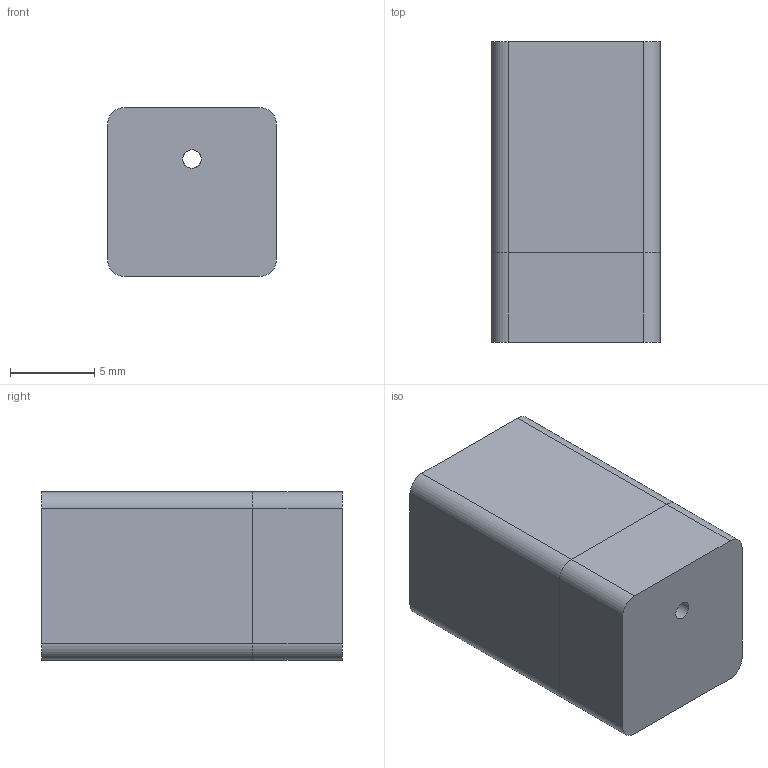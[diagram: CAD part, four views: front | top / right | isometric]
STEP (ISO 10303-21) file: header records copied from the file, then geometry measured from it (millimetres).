
FILE_DESCRIPTION(/* description */ (''),/* implementation_level */ '2;1');
FILE_NAME(/* name */ 'Cylinder (5mm,chonky,top hole, fritslot) v7.step',/* time_stamp */ '2024-06-22T12:43:18+01:00',/* author */ (''),/* organization */ (''),/* preprocessor_version */ 'ST-DEVELOPER v20',/* originating_system */ 'Autodesk Translation Framework v13.14.0.145',/* authorisation */ '');
FILE_SCHEMA (('AUTOMOTIVE_DESIGN { 1 0 10303 214 3 1 1 }'));
Length unit declared in the file: millimetre
Products named in the file (1): Cylinder (5mm,chonky,top hole, fritslot)
Bounding box: 10 x 17.8 x 10 mm (x, y, z)
Volume: 1532.2 mm3; surface area: 1588.1 mm2
Topology: 2 solids, 2 shells, 34 faces, 76 edges, 50 vertices
Faces by surface type: plane 18, cylinder 16
Full cylindrical faces by diameter (mm): 1.1 x2, 5 x2, 6.5 x1, 6.8 x1, 8.2 x1, 8.5 x1
Entity records: 1000 total; most frequent: DIRECTION 182, CARTESIAN_POINT 161, ORIENTED_EDGE 152, EDGE_CURVE 76, AXIS2_PLACEMENT_3D 71, VERTEX_POINT 50, EDGE_LOOP 42, LINE 40
